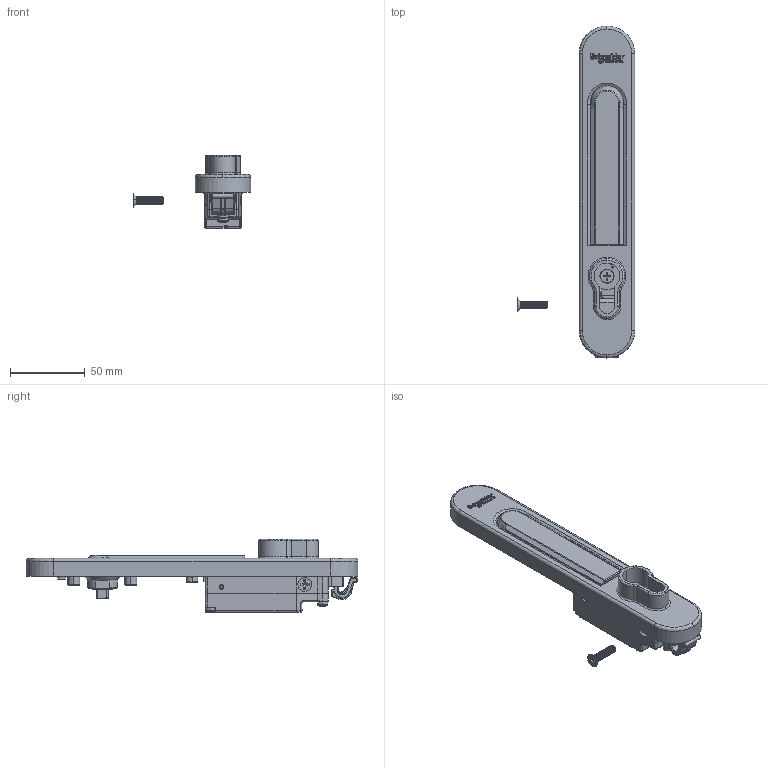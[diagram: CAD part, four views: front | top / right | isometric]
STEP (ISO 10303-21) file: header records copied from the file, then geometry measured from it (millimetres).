
FILE_DESCRIPTION(('STEP AP203'),'1');
FILE_NAME('07932.stp','2021-04-21T18:37:23',('TraceParts'),('TraceParts S.A.'),'Spatial InterOp 3D',' ',' ');
FILE_SCHEMA(('CONFIG_CONTROL_DESIGN'));
Length unit declared in the file: millimetre
Products named in the file (1): 1
Bounding box: 78.35 x 221.5 x 48.84 mm (x, y, z)
Volume: 92929.2 mm3; surface area: 70568.6 mm2
Topology: 19 solids, 19 shells, 3156 faces, 8561 edges, 5507 vertices
Faces by surface type: plane 1795, cylinder 786, bspline 207, torus 153, cone 126, sphere 89
Entity records: 174910 total; most frequent: CARTESIAN_POINT 96651, ORIENTED_EDGE 17054, DIRECTION 15276, EDGE_CURVE 8527, LINE 5608, VECTOR 5608, VERTEX_POINT 5507, AXIS2_PLACEMENT_3D 4834
